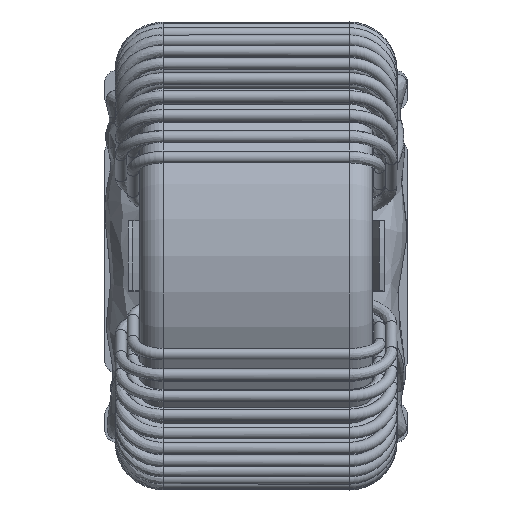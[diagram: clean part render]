
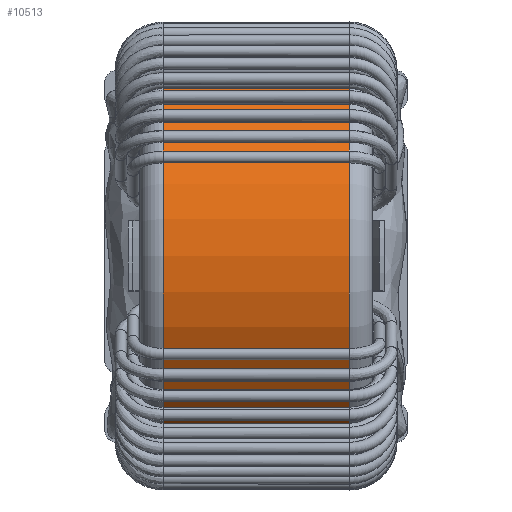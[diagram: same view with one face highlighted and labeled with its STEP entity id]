
A CAD part, top view. The second image highlights one B-rep face of the part: STEP entity #10513.
In plain terms, the highlighted cylindrical face has radius 9 mm (diameter 18 mm), a full revolution.
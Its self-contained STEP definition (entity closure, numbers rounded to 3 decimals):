
#1125=CYLINDRICAL_SURFACE('',#17074,9.);
#3106=ORIENTED_EDGE('',*,*,#4859,.F.);
#3107=ORIENTED_EDGE('',*,*,#4856,.T.);
#4856=EDGE_CURVE('',#6000,#6000,#6906,.T.);
#4859=EDGE_CURVE('',#6003,#6003,#6909,.T.);
#6000=VERTEX_POINT('',#46646);
#6003=VERTEX_POINT('',#46653);
#6906=CIRCLE('',#17061,9.);
#6909=CIRCLE('',#17065,9.);
#8189=EDGE_LOOP('',(#3106));
#8190=EDGE_LOOP('',(#3107));
#9581=FACE_BOUND('',#8189,.T.);
#9582=FACE_BOUND('',#8190,.T.);
#10513=ADVANCED_FACE('',(#9581,#9582),#1125,.T.);
#17061=AXIS2_PLACEMENT_3D('',#46645,#19481,#19482);
#17065=AXIS2_PLACEMENT_3D('',#46652,#19489,#19490);
#17074=AXIS2_PLACEMENT_3D('',#46666,#19507,#19508);
#19481=DIRECTION('',(0.,1.,0.));
#19482=DIRECTION('',(0.,0.,1.));
#19489=DIRECTION('',(0.,1.,0.));
#19490=DIRECTION('',(0.,0.,1.));
#19507=DIRECTION('',(0.,1.,0.));
#19508=DIRECTION('',(0.,0.,1.));
#46645=CARTESIAN_POINT('',(0.,-4.,9.1));
#46646=CARTESIAN_POINT('',(0.,-4.,18.1));
#46652=CARTESIAN_POINT('',(0.,4.,9.1));
#46653=CARTESIAN_POINT('',(0.,4.,18.1));
#46666=CARTESIAN_POINT('',(0.,-5.,9.1));
